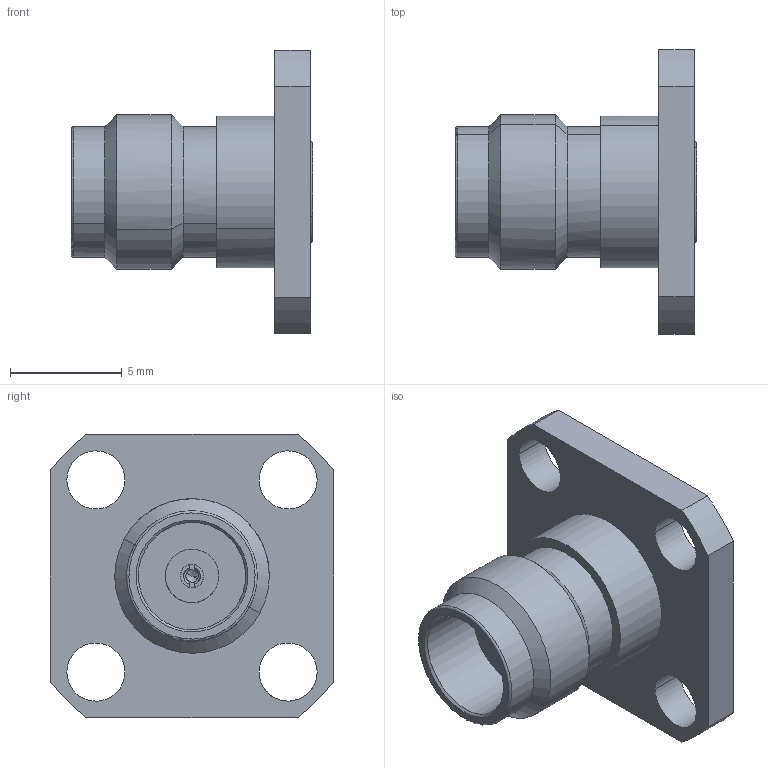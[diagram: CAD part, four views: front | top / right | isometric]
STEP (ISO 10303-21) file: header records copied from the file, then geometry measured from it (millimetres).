
FILE_DESCRIPTION(('CATIA V5 STEP Exchange'),'2;1');
FILE_NAME('F:\Work SZ\CMP 图纸\Precision Coaxial Connector\2.4mm\97-02-9F5-001\97-02-9F5-001(REV.A).stp','2013-08-08T08:47:30+00:00',('none'),('none'),'CATIA Version 5 Release 17 (IN-10)','CATIA V5 STEP AP203','none');
FILE_SCHEMA(('CONFIG_CONTROL_DESIGN'));
Length unit declared in the file: millimetre
Products named in the file (1): 97-02-9F5-001
Bounding box: 10.8 x 12.7 x 12.7 mm (x, y, z)
Volume: 450.2 mm3; surface area: 685.7 mm2
Topology: 1 solids, 1 shells, 81 faces, 201 edges, 126 vertices
Faces by surface type: cylinder 34, plane 28, cone 17, torus 2
Entity records: 2976 total; most frequent: CARTESIAN_POINT 1198, ORIENTED_EDGE 394, DIRECTION 270, EDGE_CURVE 197, VERTEX_POINT 126, AXIS2_PLACEMENT_3D 110, EDGE_LOOP 97, VECTOR 91
